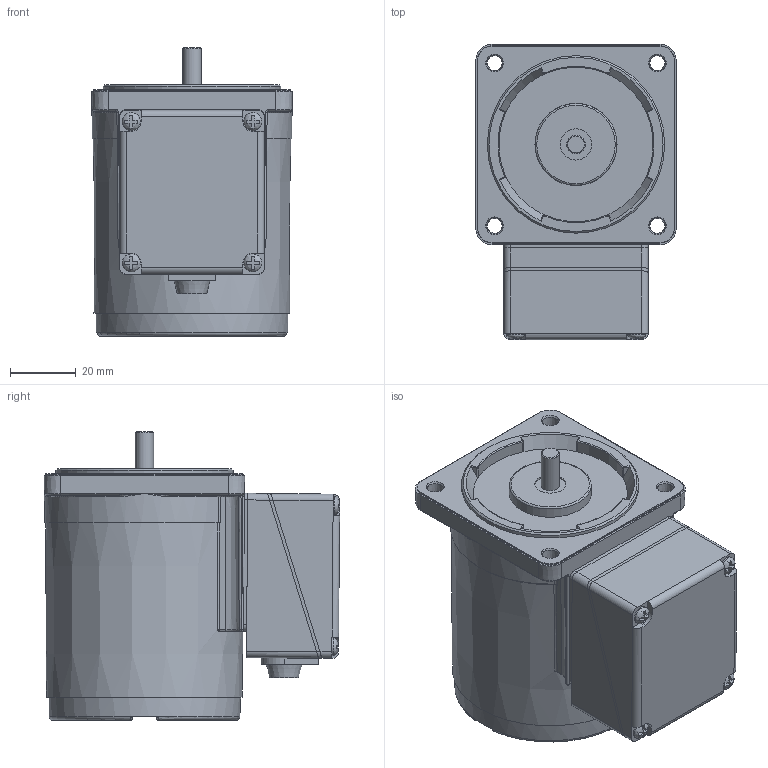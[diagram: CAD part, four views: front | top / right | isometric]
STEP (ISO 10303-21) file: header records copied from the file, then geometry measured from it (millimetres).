
FILE_DESCRIPTION (( 'STEP AP214' ), '1' );
FILE_NAME ('6IDG¤±-6G-T.STEP', '2025-01-13T01:40:31', ( '' ), ( '' ), 'SwSTEP 2.0', 'SolidWorks 2024', '' );
FILE_SCHEMA (( 'AUTOMOTIVE_DESIGN' ));
Length unit declared in the file: millimetre
Products named in the file (3): TB6070; 6IDGㅁ-6G-T; 6IDGㅁ-6G
Assembly tree (2 placements, depth 2):
  6IDGㅁ-6G-T
    6IDGㅁ-6G
    TB6070
Bounding box: 61 x 89.93 x 87.7 mm (x, y, z)
Volume: 280411.1 mm3; surface area: 47774.7 mm2
Topology: 7 solids, 7 shells, 466 faces, 1066 edges, 630 vertices
Faces by surface type: plane 166, cylinder 98, bspline 78, torus 56, cone 46, sphere 22
Full cylindrical faces by diameter (mm): 4.5 x4, 5.5 x4, 5.57 x1, 6 x1, 7 x1, 9.5 x1, 10 x1, 54 x1
Entity records: 13988 total; most frequent: CARTESIAN_POINT 4379, ORIENTED_EDGE 1922, DIRECTION 1901, EDGE_CURVE 961, AXIS2_PLACEMENT_3D 774, VERTEX_POINT 610, EDGE_LOOP 575, FACE_OUTER_BOUND 504
